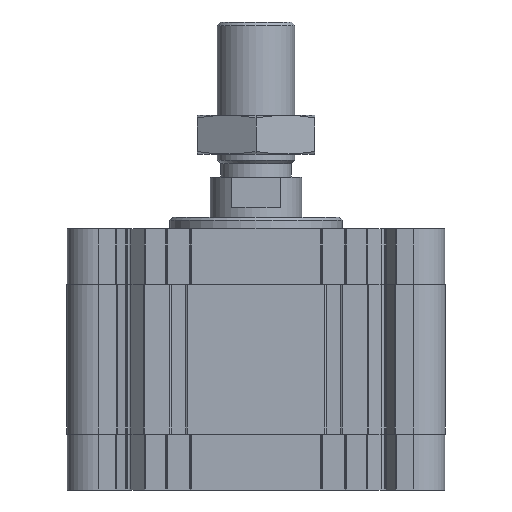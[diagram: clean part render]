
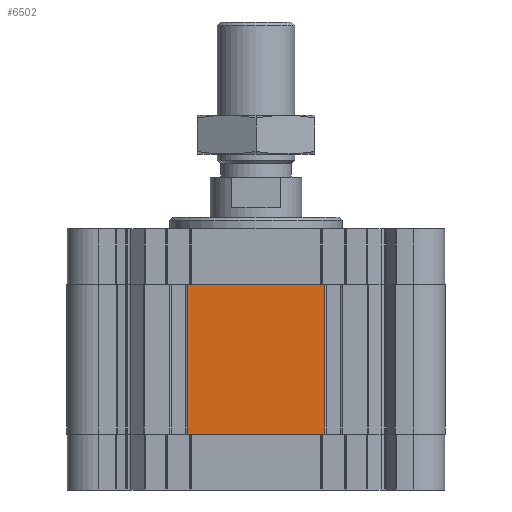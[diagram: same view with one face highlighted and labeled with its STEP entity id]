
A CAD part, front view. The second image highlights one B-rep face of the part: STEP entity #6502.
In plain terms, the highlighted planar face has unit normal (0, -1, 0).
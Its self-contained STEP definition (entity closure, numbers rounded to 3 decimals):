
#219 = VERTEX_POINT ( 'NONE', #17898 ) ;
#483 = VECTOR ( 'NONE', #18432, 1000. ) ;
#1223 = EDGE_CURVE ( 'NONE', #219, #2573, #16066, .T. ) ;
#1433 = EDGE_CURVE ( 'NONE', #11523, #20972, #15578, .T. ) ;
#1877 = LINE ( 'NONE', #20138, #6911 ) ;
#1894 = EDGE_LOOP ( 'NONE', ( #8460, #12029, #21446, #14339 ) ) ;
#2573 = VERTEX_POINT ( 'NONE', #6284 ) ;
#5281 = LINE ( 'NONE', #10169, #483 ) ;
#6284 = CARTESIAN_POINT ( 'NONE',  ( -24., -66., -19.5 ) ) ;
#6502 = ADVANCED_FACE ( 'NONE', ( #20588 ), #15474, .T. ) ;
#6911 = VECTOR ( 'NONE', #16970, 1000. ) ;
#7326 = DIRECTION ( 'NONE',  ( 0., 0., 1. ) ) ;
#8438 = CARTESIAN_POINT ( 'NONE',  ( 24., -66., -71.5 ) ) ;
#8460 = ORIENTED_EDGE ( 'NONE', *, *, #10777, .F. ) ;
#10169 = CARTESIAN_POINT ( 'NONE',  ( -24., -66., -71.5 ) ) ;
#10777 = EDGE_CURVE ( 'NONE', #2573, #20972, #1877, .T. ) ;
#11523 = VERTEX_POINT ( 'NONE', #8438 ) ;
#12029 = ORIENTED_EDGE ( 'NONE', *, *, #1223, .F. ) ;
#12681 = VECTOR ( 'NONE', #7326, 1000. ) ;
#13830 = DIRECTION ( 'NONE',  ( -1., 0., 0. ) ) ;
#14339 = ORIENTED_EDGE ( 'NONE', *, *, #1433, .T. ) ;
#15455 = VECTOR ( 'NONE', #16788, 1000. ) ;
#15474 = PLANE ( 'NONE',  #17360 ) ;
#15478 = CARTESIAN_POINT ( 'NONE',  ( 24., -66., -71.5 ) ) ;
#15578 = LINE ( 'NONE', #15478, #12681 ) ;
#16066 = LINE ( 'NONE', #21390, #15455 ) ;
#16788 = DIRECTION ( 'NONE',  ( 0., 0., 1. ) ) ;
#16970 = DIRECTION ( 'NONE',  ( 1., 0., 0. ) ) ;
#17360 = AXIS2_PLACEMENT_3D ( 'NONE', #20790, #17429, #13830 ) ;
#17429 = DIRECTION ( 'NONE',  ( 0., -1., 0. ) ) ;
#17898 = CARTESIAN_POINT ( 'NONE',  ( -24., -66., -71.5 ) ) ;
#18432 = DIRECTION ( 'NONE',  ( 1., 0., 0. ) ) ;
#19349 = CARTESIAN_POINT ( 'NONE',  ( 24., -66., -19.5 ) ) ;
#20138 = CARTESIAN_POINT ( 'NONE',  ( -24., -66., -19.5 ) ) ;
#20588 = FACE_OUTER_BOUND ( 'NONE', #1894, .T. ) ;
#20790 = CARTESIAN_POINT ( 'NONE',  ( -24., -66., -71.5 ) ) ;
#20972 = VERTEX_POINT ( 'NONE', #19349 ) ;
#21390 = CARTESIAN_POINT ( 'NONE',  ( -24., -66., -71.5 ) ) ;
#21446 = ORIENTED_EDGE ( 'NONE', *, *, #21527, .T. ) ;
#21527 = EDGE_CURVE ( 'NONE', #219, #11523, #5281, .T. ) ;
